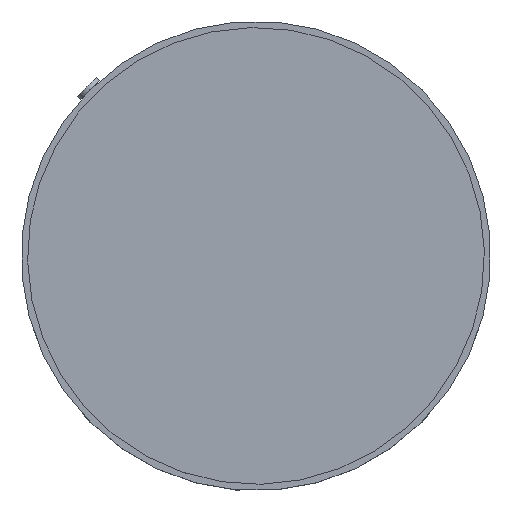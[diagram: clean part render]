
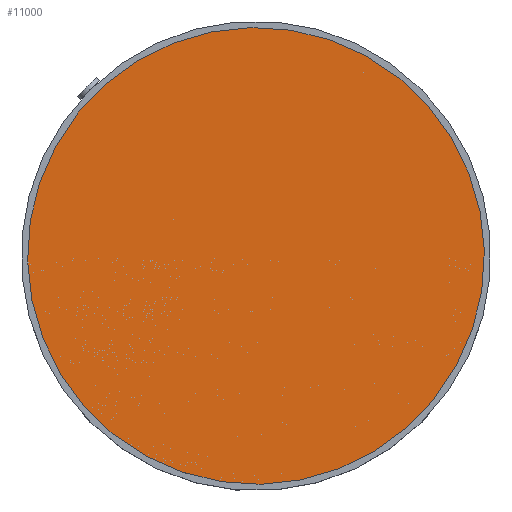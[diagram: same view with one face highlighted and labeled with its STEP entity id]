
A CAD part, top view. The second image highlights one B-rep face of the part: STEP entity #11000.
In plain terms, the highlighted planar face has unit normal (0, 0, 1).
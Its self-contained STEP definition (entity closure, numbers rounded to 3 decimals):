
#542=PLANE('',#12166);
#1104=FACE_OUTER_BOUND('',#1712,.T.);
#1712=EDGE_LOOP('',(#9568));
#3991=CIRCLE('',#12163,107.);
#5000=VERTEX_POINT('',#20063);
#6525=EDGE_CURVE('',#5000,#5000,#3991,.T.);
#9568=ORIENTED_EDGE('',*,*,#6525,.T.);
#11000=ADVANCED_FACE('',(#1104),#542,.T.);
#12163=AXIS2_PLACEMENT_3D('',#20064,#15230,#15231);
#12166=AXIS2_PLACEMENT_3D('',#20069,#15237,#15238);
#15230=DIRECTION('center_axis',(0.,0.,
1.));
#15231=DIRECTION('ref_axis',(-0.66,0.752,0.));
#15237=DIRECTION('center_axis',(0.,0.,
1.));
#15238=DIRECTION('ref_axis',(0.752,0.66,0.));
#20063=CARTESIAN_POINT('',(70.571,-80.428,0.));
#20064=CARTESIAN_POINT('Origin',(0.,0.,
0.));
#20069=CARTESIAN_POINT('Origin',(0.,0.,
0.));
